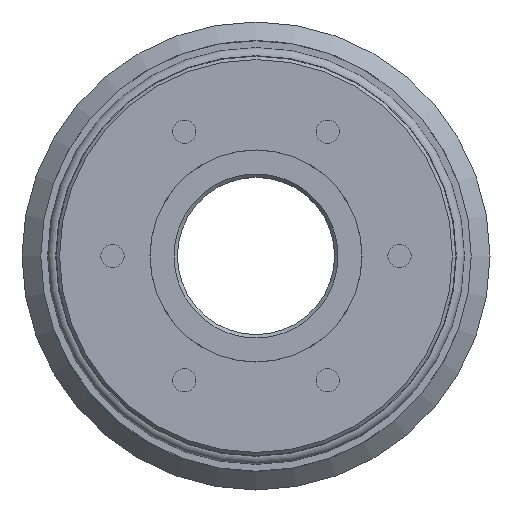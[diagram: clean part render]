
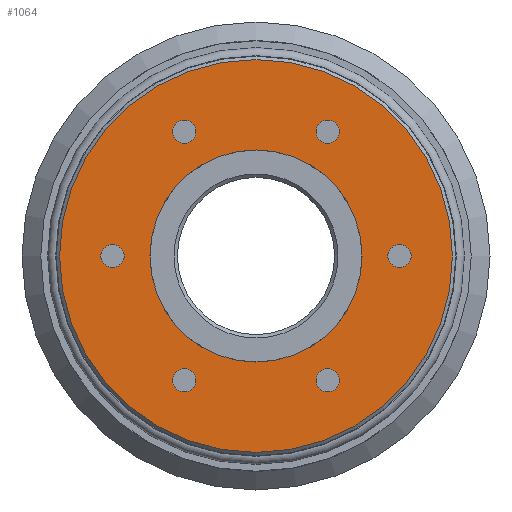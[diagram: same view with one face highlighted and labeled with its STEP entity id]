
A CAD part, left-side view. The second image highlights one B-rep face of the part: STEP entity #1064.
In plain terms, the highlighted planar face has unit normal (-1, 0, 0).
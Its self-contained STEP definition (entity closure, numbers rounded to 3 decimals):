
#1064 = ADVANCED_FACE( '', ( #2580, #2581, #2582, #2583, #2584, #2585, #2586, #2587 ), #2588, .T. );
#2580 = FACE_OUTER_BOUND( '', #4577, .T. );
#2581 = FACE_BOUND( '', #4578, .T. );
#2582 = FACE_BOUND( '', #4579, .T. );
#2583 = FACE_BOUND( '', #4580, .T. );
#2584 = FACE_BOUND( '', #4581, .T. );
#2585 = FACE_BOUND( '', #4582, .T. );
#2586 = FACE_BOUND( '', #4583, .T. );
#2587 = FACE_BOUND( '', #4584, .T. );
#2588 = PLANE( '', #4585 );
#4577 = EDGE_LOOP( '', ( #7578 ) );
#4578 = EDGE_LOOP( '', ( #7579 ) );
#4579 = EDGE_LOOP( '', ( #7580 ) );
#4580 = EDGE_LOOP( '', ( #7581 ) );
#4581 = EDGE_LOOP( '', ( #7582 ) );
#4582 = EDGE_LOOP( '', ( #7583 ) );
#4583 = EDGE_LOOP( '', ( #7584 ) );
#4584 = EDGE_LOOP( '', ( #7585 ) );
#4585 = AXIS2_PLACEMENT_3D( '', #7586, #7587, #7588 );
#7578 = ORIENTED_EDGE( '', *, *, #10798, .T. );
#7579 = ORIENTED_EDGE( '', *, *, #9887, .F. );
#7580 = ORIENTED_EDGE( '', *, *, #10704, .F. );
#7581 = ORIENTED_EDGE( '', *, *, #10799, .F. );
#7582 = ORIENTED_EDGE( '', *, *, #10800, .F. );
#7583 = ORIENTED_EDGE( '', *, *, #10801, .F. );
#7584 = ORIENTED_EDGE( '', *, *, #10565, .F. );
#7585 = ORIENTED_EDGE( '', *, *, #10802, .T. );
#7586 = CARTESIAN_POINT( '', ( -71.501, -31.05, 0. ) );
#7587 = DIRECTION( '', ( -1., 0., 0. ) );
#7588 = DIRECTION( '', ( 0., -1., 0. ) );
#9887 = EDGE_CURVE( '', #11463, #11463, #11464, .T. );
#10565 = EDGE_CURVE( '', #12557, #12557, #12558, .T. );
#10704 = EDGE_CURVE( '', #12759, #12759, #12760, .T. );
#10798 = EDGE_CURVE( '', #12897, #12897, #12898, .T. );
#10799 = EDGE_CURVE( '', #12899, #12899, #12900, .T. );
#10800 = EDGE_CURVE( '', #12901, #12901, #12902, .T. );
#10801 = EDGE_CURVE( '', #12903, #12903, #12904, .T. );
#10802 = EDGE_CURVE( '', #12905, #12905, #12906, .F. );
#11463 = VERTEX_POINT( '', #13704 );
#11464 = CIRCLE( '', #13705, 3.4 );
#12557 = VERTEX_POINT( '', #15071 );
#12558 = CIRCLE( '', #15072, 3.4 );
#12759 = VERTEX_POINT( '', #15327 );
#12760 = CIRCLE( '', #15328, 3.4 );
#12897 = VERTEX_POINT( '', #15502 );
#12898 = CIRCLE( '', #15503, 57.5 );
#12899 = VERTEX_POINT( '', #15504 );
#12900 = CIRCLE( '', #15505, 3.4 );
#12901 = VERTEX_POINT( '', #15506 );
#12902 = CIRCLE( '', #15507, 3.4 );
#12903 = VERTEX_POINT( '', #15508 );
#12904 = CIRCLE( '', #15509, 3.4 );
#12905 = VERTEX_POINT( '', #15510 );
#12906 = CIRCLE( '', #15511, 31.05 );
#13704 = CARTESIAN_POINT( '', ( -71.501, -22.7, -39.318 ) );
#13705 = AXIS2_PLACEMENT_3D( '', #16442, #16443, #16444 );
#15071 = CARTESIAN_POINT( '', ( -71.501, -45.4, 0. ) );
#15072 = AXIS2_PLACEMENT_3D( '', #17425, #17426, #17427 );
#15327 = CARTESIAN_POINT( '', ( -71.501, 22.7, -39.318 ) );
#15328 = AXIS2_PLACEMENT_3D( '', #17599, #17600, #17601 );
#15502 = CARTESIAN_POINT( '', ( -71.501, -57.5, 0. ) );
#15503 = AXIS2_PLACEMENT_3D( '', #17723, #17724, #17725 );
#15504 = CARTESIAN_POINT( '', ( -71.501, 45.4, 0. ) );
#15505 = AXIS2_PLACEMENT_3D( '', #17726, #17727, #17728 );
#15506 = CARTESIAN_POINT( '', ( -71.501, 22.7, 39.318 ) );
#15507 = AXIS2_PLACEMENT_3D( '', #17729, #17730, #17731 );
#15508 = CARTESIAN_POINT( '', ( -71.501, -22.7, 39.318 ) );
#15509 = AXIS2_PLACEMENT_3D( '', #17732, #17733, #17734 );
#15510 = CARTESIAN_POINT( '', ( -71.501, -31.05, 0. ) );
#15511 = AXIS2_PLACEMENT_3D( '', #17735, #17736, #17737 );
#16442 = CARTESIAN_POINT( '', ( -71.501, -21., -36.373 ) );
#16443 = DIRECTION( '', ( -1., 0., 0. ) );
#16444 = DIRECTION( '', ( 0., -0.5, -0.866 ) );
#17425 = CARTESIAN_POINT( '', ( -71.501, -42., 0. ) );
#17426 = DIRECTION( '', ( -1., 0., 0. ) );
#17427 = DIRECTION( '', ( 0., -1., 0. ) );
#17599 = CARTESIAN_POINT( '', ( -71.501, 21., -36.373 ) );
#17600 = DIRECTION( '', ( -1., 0., 0. ) );
#17601 = DIRECTION( '', ( 0., 0.5, -0.866 ) );
#17723 = CARTESIAN_POINT( '', ( -71.501, 0., 0. ) );
#17724 = DIRECTION( '', ( -1., 0., 0. ) );
#17725 = DIRECTION( '', ( 0., -1., 0. ) );
#17726 = CARTESIAN_POINT( '', ( -71.501, 42., 0. ) );
#17727 = DIRECTION( '', ( -1., 0., 0. ) );
#17728 = DIRECTION( '', ( 0., 1., 0. ) );
#17729 = CARTESIAN_POINT( '', ( -71.501, 21., 36.373 ) );
#17730 = DIRECTION( '', ( -1., 0., 0. ) );
#17731 = DIRECTION( '', ( 0., 0.5, 0.866 ) );
#17732 = CARTESIAN_POINT( '', ( -71.501, -21., 36.373 ) );
#17733 = DIRECTION( '', ( -1., 0., 0. ) );
#17734 = DIRECTION( '', ( 0., -0.5, 0.866 ) );
#17735 = CARTESIAN_POINT( '', ( -71.501, 0., 0. ) );
#17736 = DIRECTION( '', ( -1., 0., 0. ) );
#17737 = DIRECTION( '', ( 0., -1., 0. ) );
